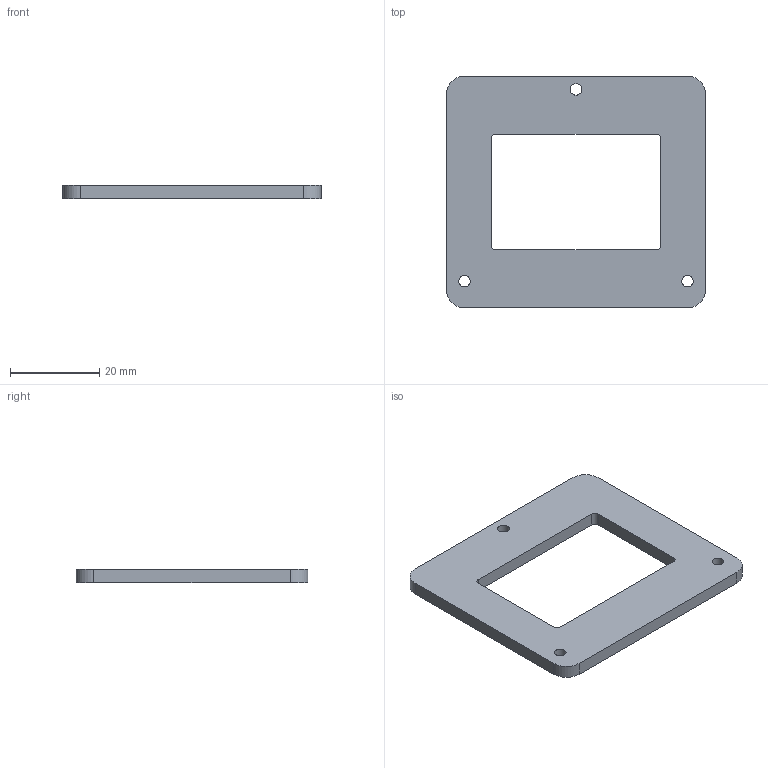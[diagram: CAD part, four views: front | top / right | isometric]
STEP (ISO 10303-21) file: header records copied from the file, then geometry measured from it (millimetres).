
FILE_DESCRIPTION(('Open CASCADE Model'),'2;1');
FILE_NAME('Open CASCADE Shape Model','2026-11-05T01:47:42',('Author'),( 'Open CASCADE'),'Open CASCADE STEP processor 7.8','Open CASCADE 7.8' ,'Unknown');
FILE_SCHEMA(('AUTOMOTIVE_DESIGN { 1 0 10303 214 1 1 1 1 }'));
Length unit declared in the file: millimetre
Products named in the file (1): Open CASCADE STEP translator 7.8 13
Bounding box: 58 x 52 x 3 mm (x, y, z)
Volume: 5997.6 mm3; surface area: 5090.2 mm2
Topology: 1 solids, 1 shells, 21 faces, 57 edges, 38 vertices
Faces by surface type: cylinder 11, plane 10
Full cylindrical faces by diameter (mm): 2.6 x3
Entity records: 1476 total; most frequent: CARTESIAN_POINT 303, DIRECTION 225, LINE 127, VECTOR 127, ORIENTED_EDGE 114, PCURVE 114, DEFINITIONAL_REPRESENTATION 114, EDGE_CURVE 57
